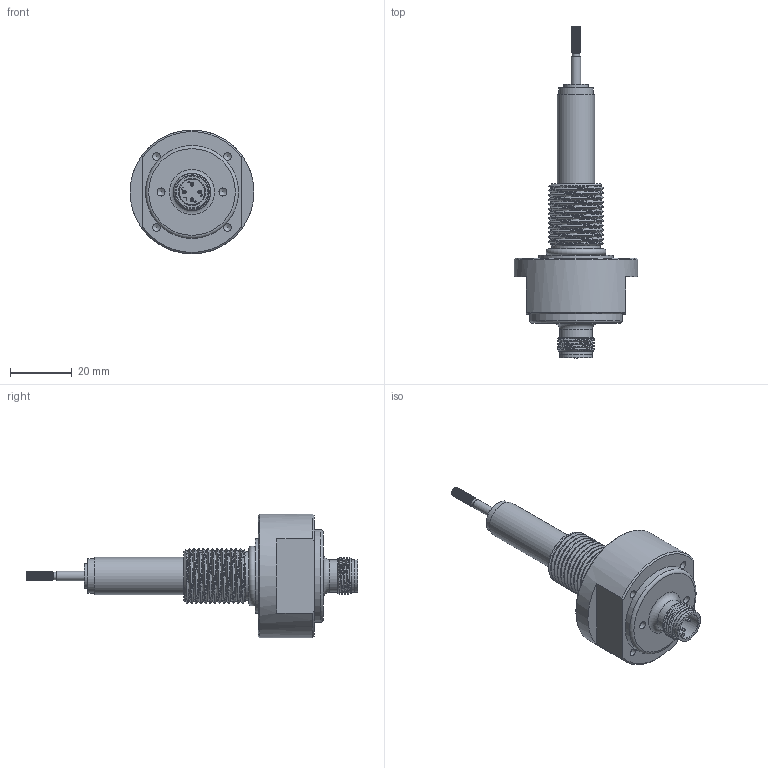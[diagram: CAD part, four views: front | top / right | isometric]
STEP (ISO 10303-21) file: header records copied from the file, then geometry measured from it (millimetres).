
FILE_DESCRIPTION( ( 'Unknown' ), '1' );
FILE_NAME( 'N:/Engineering/CAD/LVDT/HYD/Kunden-3D-Modell/SM5-HYD-18-S-M12.stp', 'Unknown', ( 'Unknown' ), ( 'Unknown' ), 'PSStep 17.0.49', 'Unknown', ' ' );
FILE_SCHEMA( ( 'AUTOMOTIVE_DESIGN { 1 0 10303 214 1 1 1 1 }' ) );
Length unit declared in the file: millimetre
Products named in the file (11): Einbaustecker_Waycon; Einbausteckverbinder_Waycon; Kontaktstift_M12; Assem1; Endkappe; Innenrohr_SM5-HYD; Kernverlängerung_SM5-HYD; SM-HYD-Flansch_M18_vereinfacht; O-Ring_15,4x2,1; Endkappe_HYD-KA_vereinfacht; Aussenrohr_SM5-HYD_vereinfacht
Assembly tree (13 placements, depth 3):
  Assem1
    Endkappe
    Innenrohr_SM5-HYD
    Kernverlängerung_SM5-HYD
    SM-HYD-Flansch_M18_vereinfacht
    O-Ring_15,4x2,1
    Endkappe_HYD-KA_vereinfacht
    Aussenrohr_SM5-HYD_vereinfacht
    Einbaustecker_Waycon
      Einbausteckverbinder_Waycon
      Kontaktstift_M12  x4
Bounding box: 40 x 107.2 x 40 mm (x, y, z)
Volume: 34449.2 mm3; surface area: 17509.3 mm2
Topology: 12 solids, 12 shells, 261 faces, 583 edges, 383 vertices
Faces by surface type: plane 122, cylinder 68, cone 37, extrusion 18, bspline 8, torus 8
Full cylindrical faces by diameter (mm): 0.5 x4, 1 x12, 1.2 x8, 1.8 x4, 2.013 x1, 2.4 x1, 2.5 x4, 2.6 x2, 3 x1, 4 x1, 6 x2, 8 x2, 8.2 x1, 8.3 x1, 9 x1, 9.35 x1, 9.55 x1, 10 x1, 10.05 x1, 10.5 x1, 10.6 x2, 11 x2, 12 x2, 15.8 x1, 22.5 x1, 24 x2, 30 x1, 40 x1
Entity records: 14294 total; most frequent: CARTESIAN_POINT 7955, DIRECTION 870, ORIENTED_EDGE 796, EDGE_CURVE 398, EDGE_LOOP 331, AXIS2_PLACEMENT_3D 327, VERTEX_POINT 309, FACE_OUTER_BOUND 264
